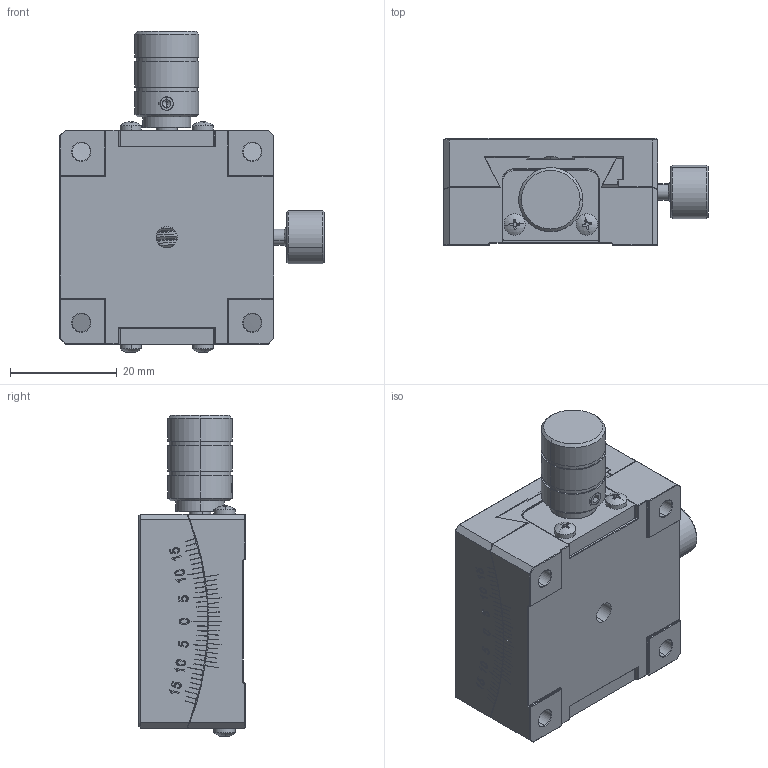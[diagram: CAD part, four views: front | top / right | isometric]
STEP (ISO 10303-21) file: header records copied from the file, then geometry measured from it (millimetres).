
FILE_DESCRIPTION (( 'STEP AP203' ), '1' );
FILE_NAME ('BFSG40-40.STEP', '2024-07-30T00:27:53', ( '微软用户' ), ( '微软中国' ), 'SwSTEP 2.0', 'SolidWorks 2024', '' );
FILE_SCHEMA (( 'CONFIG_CONTROL_DESIGN' ));
Length unit declared in the file: millimetre
Products named in the file (1): BFSG40-40
Bounding box: 49.45 x 20 x 60.08 mm (x, y, z)
Volume: 30942 mm3; surface area: 18958.2 mm2
Topology: 15 solids, 15 shells, 1045 faces, 3086 edges, 1993 vertices
Faces by surface type: plane 548, cylinder 226, torus 90, cone 72, sphere 56, bspline 53
Entity records: 49720 total; most frequent: CARTESIAN_POINT 23426, ORIENTED_EDGE 5820, DIRECTION 5080, EDGE_CURVE 2910, VERTEX_POINT 1897, AXIS2_PLACEMENT_3D 1816, VECTOR 1448, LINE 1448
